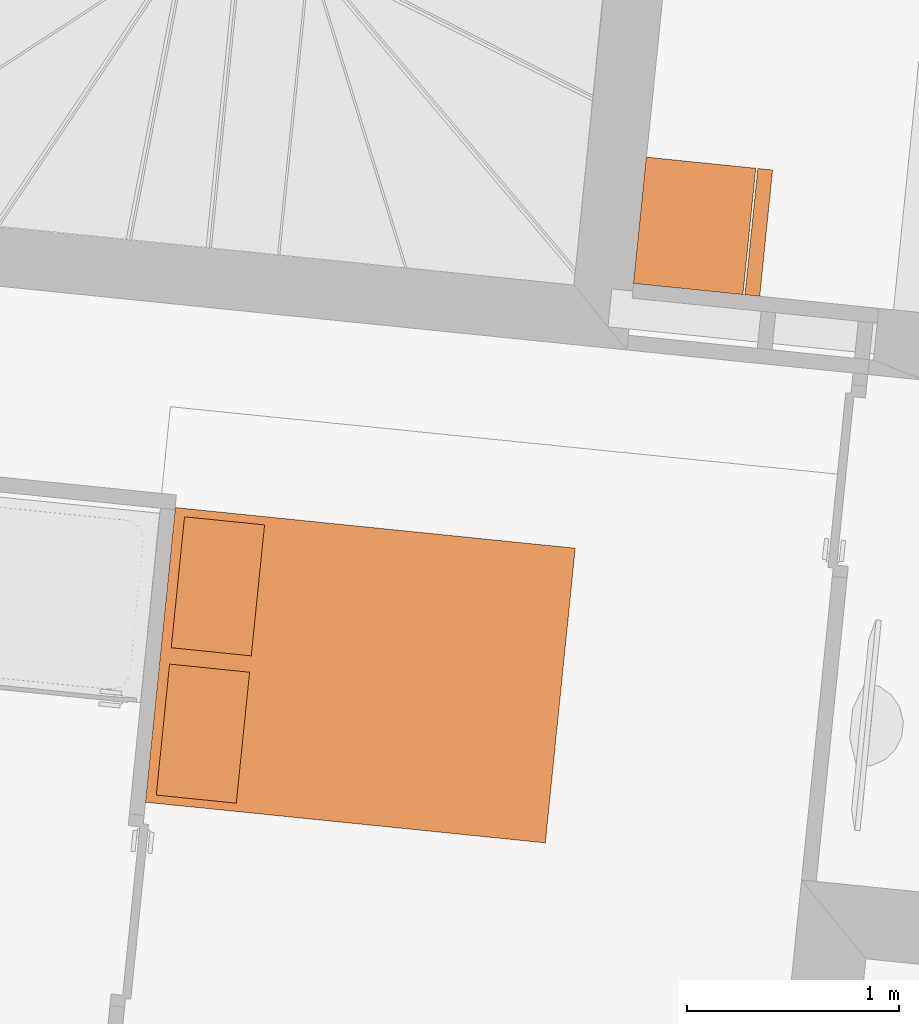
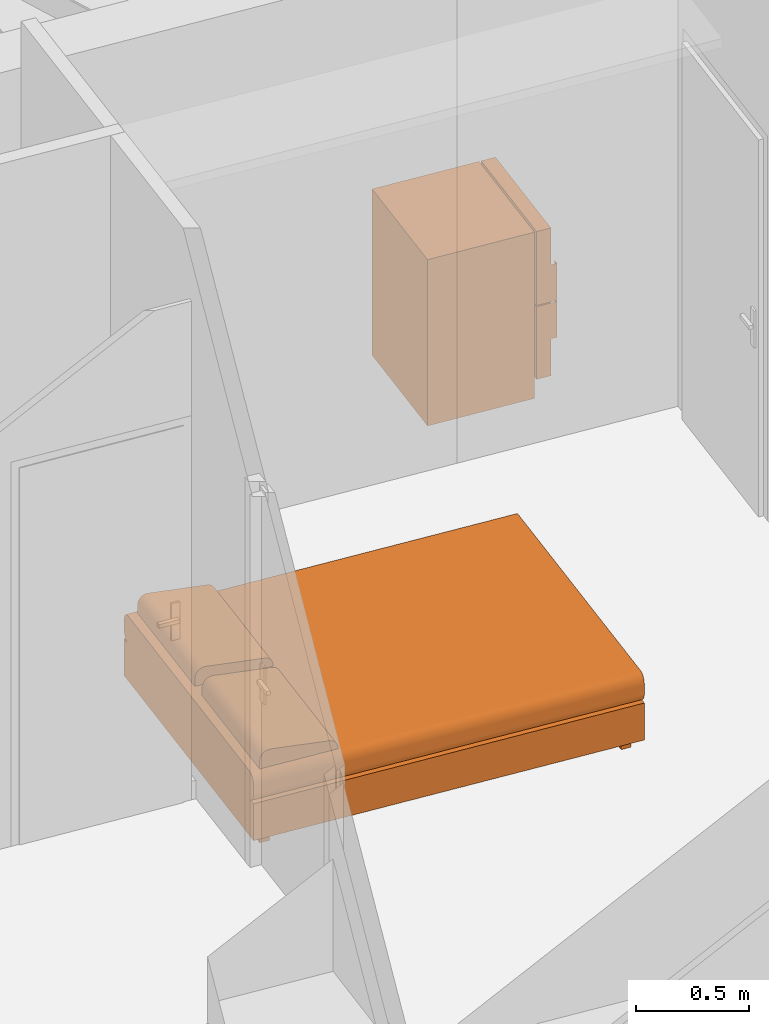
# One storey, part 154 of 164: 2 proxies.
"""IFC2X3 building model written with IfcOpenShell, lengths in millimetres."""

from ifc_helpers import new_model, entity, si_unit, converted_unit, derived_unit, money_unit, direction, frame, origin_with_axes, place, context, subcontext, project, spatial, open_shell, faceted_brep, surface_model, source, transform, mapped, type_object, element, save


model = new_model("IFC2X3")

# Units and contexts
model_context = context("Model", 3, precision=0.01, world=origin_with_axes(), true_north=direction((0.0, 1.0)))
body_context = subcontext(model_context, "Body", "Model", "MODEL_VIEW")
ifc_project = project(units=[si_unit("LENGTHUNIT", "METRE", prefix="MILLI"), si_unit("AREAUNIT", "SQUARE_METRE"), si_unit("VOLUMEUNIT", "CUBIC_METRE"), converted_unit("PLANEANGLEUNIT", "DEGREE", entity("IfcPlaneAngleMeasure", 0.0174532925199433), si_unit("PLANEANGLEUNIT", "RADIAN"), dimensions=[0, 0, 0, 0, 0, 0, 0]), money_unit("USD"), converted_unit("TIMEUNIT", "Year", entity("IfcTimeMeasure", 31557600.0), si_unit("TIMEUNIT", "SECOND"), dimensions=[0, 0, 1, 0, 0, 0, 0]), si_unit("MASSUNIT", "GRAM", prefix="KILO"), si_unit("THERMODYNAMICTEMPERATUREUNIT", "DEGREE_CELSIUS"), si_unit("LUMINOUSINTENSITYUNIT", "LUMEN"), si_unit("ENERGYUNIT", "JOULE", prefix="MEGA"), derived_unit("THERMALCONDUCTANCEUNIT", [(si_unit("POWERUNIT", "WATT"), 1), (si_unit("LENGTHUNIT", "METRE"), -1), (si_unit("THERMODYNAMICTEMPERATUREUNIT", "KELVIN"), -1)]), derived_unit("SPECIFICHEATCAPACITYUNIT", [(si_unit("ENERGYUNIT", "JOULE"), 1), (si_unit("MASSUNIT", "GRAM", prefix="KILO"), -1), (si_unit("THERMODYNAMICTEMPERATUREUNIT", "KELVIN"), -1)]), derived_unit("MASSDENSITYUNIT", [(si_unit("MASSUNIT", "GRAM", prefix="KILO"), 1), (si_unit("VOLUMEUNIT", "CUBIC_METRE"), -1)])], contexts=[model_context])

# Site, building, storey
site_placement = place(None, origin_with_axes())
site = spatial("IfcSite", under=ifc_project, at=site_placement, Name="Site", CompositionType="ELEMENT")
building_placement = place(site_placement, origin_with_axes())
building = spatial("IfcBuilding", under=site, at=building_placement, Name="Bâtiment", CompositionType="ELEMENT")
storey_placement = place(building_placement, frame((0.0, 0.0, 5750.0), z_axis=(0.0, 0.0, 1.0), x_axis=(1.0, 0.0, 0.0)))
storey = spatial("IfcBuildingStorey", under=building, at=storey_placement, Name="Etage1", CompositionType="ELEMENT", Elevation=5750.0)

# Proxies
building_element_proxy_type = type_object("IfcBuildingElementProxyType", PredefinedType="NOTDEFINED")
shared_shape_1 = source(origin_with_axes(), body_context, "Body", "SurfaceModel", [
    faceted_brep([(0.0, 80.0, 100.0), (0.0, 80.0, 900.0), (-600.0, 80.0, 900.0), (-600.0, 80.0, 100.0), (0.0, 600.0, 100.0), (0.0, 600.0, 900.0), (-600.0, 600.0, 900.0), (-600.0, 600.0, 100.0)], [[[0, 1, 2, 3]], [[4, 5, 1, 0]], [[1, 5, 6, 2]], [[3, 2, 6, 7]], [[0, 3, 7, 4]], [[7, 6, 5, 4]]]),
    faceted_brep([(0.0, 80.0, 0.0), (0.0, 80.0, 100.0), (-600.0, 80.0, 100.0), (-600.0, 80.0, 0.0), (0.0, 600.0, 0.0), (0.0, 600.0, 100.0), (-600.0, 600.0, 100.0), (-600.0, 600.0, 0.0)], [[[0, 1, 2, 3]], [[4, 5, 1, 0]], [[1, 5, 6, 2]], [[3, 2, 6, 7]], [[0, 3, 7, 4]], [[7, 6, 5, 4]]]),
    faceted_brep([(0.0, 70.0, 100.0), (0.0, 0.0, 100.0), (-600.0, 0.0, 100.0), (-600.0, 70.0, 100.0), (0.0, 70.00000000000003, 494.0), (0.0, 0.0, 494.0), (-600.0, 0.0, 494.0), (-600.0, 70.00000000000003, 494.0)], [[[0, 1, 2, 3]], [[4, 5, 1, 0]], [[1, 5, 6, 2]], [[3, 2, 6, 7]], [[0, 3, 7, 4]], [[7, 6, 5, 4]]]),
    faceted_brep([(0.0, 70.0, 500.0), (0.0, 0.0, 500.0), (-600.0, 0.0, 500.0), (-600.0, 70.0, 500.0), (0.0, 70.00000000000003, 900.0), (0.0, 0.0, 900.0), (-600.0, 0.0, 900.0), (-600.0, 70.00000000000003, 900.0)], [[[0, 1, 2, 3]], [[4, 5, 1, 0]], [[1, 5, 6, 2]], [[3, 2, 6, 7]], [[0, 3, 7, 4]], [[7, 6, 5, 4]]]),
    surface_model("IfcShellBasedSurfaceModel", [(-600.0, -30.0, 300.0000000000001), (-600.0, 0.0, 300.0000000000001), (-600.0, 0.0, 494.0000000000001), (-600.0, -30.0, 494.0000000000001)], [open_shell([[[0, 1, 2, 3]]])]),
    surface_model("IfcShellBasedSurfaceModel", [(-600.0, -30.0, 300.0000000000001), (-570.0, -30.0, 300.0000000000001), (-570.0, -30.0, 494.0000000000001), (-600.0, -30.0, 494.0000000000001)], [open_shell([[[0, 1, 2, 3]]])]),
    surface_model("IfcShellBasedSurfaceModel", [(-600.0, -30.0, 500.0), (-600.0, 0.0, 500.0), (-600.0, 0.0, 700.0), (-600.0, -30.0, 700.0)], [open_shell([[[0, 1, 2, 3]]])]),
    surface_model("IfcShellBasedSurfaceModel", [(-600.0, -30.0, 500.0), (-570.0, -30.0, 500.0), (-570.0, -30.0, 700.0), (-600.0, -30.0, 700.0)], [open_shell([[[0, 1, 2, 3]]])]),
])
proxy_1_placement = place(storey_placement, frame((2229379.346212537, -616663.7993337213, 0.0), z_axis=(0.0, 0.0, 1.0), x_axis=(0.1011288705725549, 0.9948733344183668, 0.0)))
element("IfcBuildingElementProxy", 1, at=proxy_1_placement, inside=storey, type_object=building_element_proxy_type, Name="Obj.-019", context=body_context, shape_type="MappedRepresentation", body=[
    mapped(shared_shape_1, transform((0.0, 0.0, 0.0))),
])
shared_shape_2 = source(origin_with_axes(), body_context, "Body", "SurfaceModel", [
    faceted_brep([(622.2222222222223, -95.0, 0.0), (622.2222222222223, -47.5, 0.0), (661.1111111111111, -47.5, 0.0), (661.1111111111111, -95.0, 0.0), (622.2222222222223, -95.0, 50.0), (622.2222222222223, -47.5, 50.0), (661.1111111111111, -47.5, 50.0), (661.1111111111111, -95.0, 50.0)], [[[0, 1, 2, 3]], [[0, 4, 5, 1]], [[1, 5, 6, 2]], [[2, 6, 7, 3]], [[3, 7, 4, 0]], [[7, 6, 5, 4]]]),
    faceted_brep([(622.2222222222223, -1852.5, 0.0), (622.2222222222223, -1805.0, 0.0), (661.1111111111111, -1805.0, 0.0), (661.1111111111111, -1852.5, 0.0), (622.2222222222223, -1852.5, 50.0), (622.2222222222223, -1805.0, 50.0), (661.1111111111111, -1805.0, 50.0), (661.1111111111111, -1852.5, 50.0)], [[[0, 1, 2, 3]], [[0, 4, 5, 1]], [[1, 5, 6, 2]], [[2, 6, 7, 3]], [[3, 7, 4, 0]], [[7, 6, 5, 4]]]),
    faceted_brep([(-661.111111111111, -1852.5, 0.0), (-661.111111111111, -1805.0, 0.0), (-622.2222222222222, -1805.0, 0.0), (-622.2222222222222, -1852.5, 0.0), (-661.111111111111, -1852.5, 50.0), (-661.111111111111, -1805.0, 50.0), (-622.2222222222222, -1805.0, 50.0), (-622.2222222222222, -1852.5, 50.0)], [[[0, 1, 2, 3]], [[0, 4, 5, 1]], [[1, 5, 6, 2]], [[2, 6, 7, 3]], [[3, 7, 4, 0]], [[7, 6, 5, 4]]]),
    faceted_brep([(-661.111111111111, -94.99999999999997, 0.0), (-661.111111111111, -47.49999999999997, 0.0), (-622.2222222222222, -47.49999999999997, 0.0), (-622.2222222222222, -94.99999999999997, 0.0), (-661.111111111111, -94.99999999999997, 50.0), (-661.111111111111, -47.49999999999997, 50.0), (-622.2222222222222, -47.49999999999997, 50.0), (-622.2222222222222, -94.99999999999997, 50.0)], [[[0, 1, 2, 3]], [[0, 4, 5, 1]], [[1, 5, 6, 2]], [[2, 6, 7, 3]], [[3, 7, 4, 0]], [[7, 6, 5, 4]]]),
    faceted_brep([(700.0, 0.0, 50.0), (700.0, -1900.0, 50.00000000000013), (-700.0, -1900.0, 50.00000000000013), (-700.0, 0.0, 50.0), (700.0, 0.0, 250.0), (700.0, -1900.0, 250.0000000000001), (-700.0, -1900.0, 250.0000000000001), (-700.0, 0.0, 250.0)], [[[0, 1, 2, 3]], [[4, 5, 1, 0]], [[1, 5, 6, 2]], [[3, 2, 6, 7]], [[0, 3, 7, 4]], [[7, 6, 5, 4]]]),
    surface_model("IfcShellBasedSurfaceModel", [(-661.1111111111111, 0.0, 250.0), (-661.1111111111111, -1900.0, 250.0000000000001), (-667.8640957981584, -1900.0, 250.7596123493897), (-667.8640957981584, 0.0, 250.7596123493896), (661.1111111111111, -1900.0, 250.0000000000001), (667.8640957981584, -1900.0, 250.7596123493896), (674.4118944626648, -1900.0, 253.0153689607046), (680.5555555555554, -1900.0, 256.6987298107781), (686.1084070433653, -1900.0, 261.6977778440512), (690.9017283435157, -1900.0, 267.8606195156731), (694.7898768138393, -1900.0, 275.0000000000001), (697.654713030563, -1900.0, 282.8989928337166), (699.4091903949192, -1900.0, 291.3175911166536), (700.0, -1900.0, 300.0000000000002), (700.0000000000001, -1900.0, 350.0000000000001), (699.4091903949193, -1900.0, 358.6824088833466), (697.654713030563, -1900.0, 367.1010071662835), (694.7898768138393, -1900.0, 375.0000000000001), (690.9017283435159, -1900.0, 382.1393804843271), (686.1084070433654, -1900.0, 388.302222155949), (680.5555555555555, -1900.0, 393.3012701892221), (674.4118944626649, -1900.0, 396.9846310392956), (667.8640957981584, -1900.0, 399.2403876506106), (661.1111111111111, -1900.0, 400.0000000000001), (-661.111111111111, -1900.0, 400.0000000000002), (-667.8640957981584, -1900.0, 399.2403876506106), (-674.4118944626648, -1900.0, 396.9846310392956), (-680.5555555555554, -1900.0, 393.3012701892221), (-686.1084070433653, -1900.0, 388.302222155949), (-690.9017283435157, -1900.0, 382.1393804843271), (-694.7898768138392, -1900.0, 375.0000000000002), (-697.654713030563, -1900.0, 367.1010071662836), (-699.4091903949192, -1900.0, 358.6824088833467), (-700.0, -1900.0, 350.0000000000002), (-700.0, -1900.0, 300.0000000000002), (-699.4091903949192, -1900.0, 291.3175911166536), (-697.654713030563, -1900.0, 282.8989928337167), (-694.7898768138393, -1900.0, 275.0000000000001), (-690.9017283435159, -1900.0, 267.8606195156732), (-686.1084070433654, -1900.0, 261.6977778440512), (-680.5555555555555, -1900.0, 256.6987298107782), (-674.4118944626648, -1900.0, 253.0153689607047), (-674.4118944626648, 0.0, 253.0153689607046), (661.1111111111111, 0.0, 250.0), (-680.5555555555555, 0.0, 256.698729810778), (-686.1084070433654, 0.0, 261.6977778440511), (-690.9017283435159, 0.0, 267.8606195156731), (-694.7898768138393, 0.0, 275.0), (-697.654713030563, 0.0, 282.8989928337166), (-699.4091903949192, 0.0, 291.3175911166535), (-700.0, 0.0, 300.0000000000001), (-700.0, 0.0, 350.0000000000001), (-699.4091903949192, 0.0, 358.6824088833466), (-697.654713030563, 0.0, 367.1010071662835), (-694.7898768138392, 0.0, 375.0000000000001), (-690.9017283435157, 0.0, 382.139380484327), (-686.1084070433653, 0.0, 388.3022221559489), (-680.5555555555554, 0.0, 393.301270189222), (-674.4118944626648, 0.0, 396.9846310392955), (-667.8640957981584, 0.0, 399.2403876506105), (-661.111111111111, 0.0, 400.0000000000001), (661.1111111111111, 0.0, 400.0), (667.8640957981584, 0.0, 399.2403876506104), (674.4118944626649, 0.0, 396.9846310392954), (680.5555555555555, 0.0, 393.301270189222), (686.1084070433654, 0.0, 388.3022221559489), (690.9017283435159, 0.0, 382.139380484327), (694.7898768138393, 0.0, 375.0), (697.654713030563, 0.0, 367.1010071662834), (699.4091903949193, 0.0, 358.6824088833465), (700.0000000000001, 0.0, 350.0), (700.0, 0.0, 300.0000000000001), (699.4091903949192, 0.0, 291.3175911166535), (697.654713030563, 0.0, 282.8989928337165), (694.7898768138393, 0.0, 275.0), (690.9017283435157, 0.0, 267.860619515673), (686.1084070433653, 0.0, 261.6977778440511), (680.5555555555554, 0.0, 256.698729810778), (674.4118944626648, 0.0, 253.0153689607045), (667.8640957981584, 0.0, 250.7596123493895)], [open_shell([[[0, 1, 2, 3]], [[4, 5, 6, 7, 8, 9, 10, 11, 12, 13, 14, 15, 16, 17, 18, 19, 20, 21, 22, 23, 24, 25, 26, 27, 28, 29, 30, 31, 32, 33, 34, 35, 36, 37, 38, 39, 40, 41, 2, 1]], [[3, 2, 41, 42]], [[43, 0, 3, 42, 44, 45, 46, 47, 48, 49, 50, 51, 52, 53, 54, 55, 56, 57, 58, 59, 60, 61, 62, 63, 64, 65, 66, 67, 68, 69, 70, 71, 72, 73, 74, 75, 76, 77, 78, 79]], [[79, 5, 4, 43]], [[78, 6, 5, 79]], [[77, 7, 6, 78]], [[76, 8, 7, 77]], [[75, 9, 8, 76]], [[74, 10, 9, 75]], [[73, 11, 10, 74]], [[72, 12, 11, 73]], [[71, 13, 12, 72]], [[70, 14, 13, 71]], [[69, 15, 14, 70]], [[68, 16, 15, 69]], [[67, 17, 16, 68]], [[66, 18, 17, 67]], [[65, 19, 18, 66]], [[64, 20, 19, 65]], [[63, 21, 20, 64]], [[62, 22, 21, 63]], [[61, 23, 22, 62]], [[60, 24, 23, 61]], [[59, 25, 24, 60]], [[58, 26, 25, 59]], [[57, 27, 26, 58]], [[56, 28, 27, 57]], [[55, 29, 28, 56]], [[54, 30, 29, 55]], [[53, 31, 30, 54]], [[52, 32, 31, 53]], [[51, 33, 32, 52]], [[50, 34, 33, 51]], [[49, 35, 34, 50]], [[48, 36, 35, 49]], [[47, 37, 36, 48]], [[46, 38, 37, 47]], [[45, 39, 38, 46]], [[44, 40, 39, 45]], [[42, 41, 40, 44]]])]),
    faceted_brep([(-38.88888888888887, -47.49999999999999, 400.0), (-661.1111111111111, -47.50000000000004, 400.0000000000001), (-661.1111111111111, -47.50000000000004, 443.4000000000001), (-38.88888888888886, -47.49999999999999, 443.4), (-38.88888888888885, -427.5, 400.0), (-661.1111111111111, -427.5, 400.0000000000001), (-661.1111111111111, -427.6960812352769, 408.6954428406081), (-661.1111111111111, -426.4675711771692, 417.2966661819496), (-661.1111111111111, -423.8511300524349, 425.5469991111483), (-661.1111111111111, -419.924835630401, 433.2002417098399), (-661.1111111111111, -414.8058532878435, 440.0280119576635), (-661.1111111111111, -408.6469396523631, 445.826560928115), (-661.1111111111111, -401.6318841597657, 450.4228529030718), (-661.1111111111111, -393.9700245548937, 453.6797289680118), (-661.1111111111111, -385.89, 455.5000000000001), (-661.1111111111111, -100.8900000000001, 493.0000000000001), (-661.1111111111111, -92.85488048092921, 493.3370808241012), (-661.1111111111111, -84.88093291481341, 492.2422169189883), (-661.1111111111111, -77.19681007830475, 489.7468034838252), (-661.1111111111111, -70.02285403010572, 485.922396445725), (-661.1111111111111, -63.56477780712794, 480.878660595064), (-661.1111111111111, -58.00776660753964, 474.7602249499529), (-661.1111111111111, -53.51116760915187, 467.7425355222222), (-661.1111111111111, -50.20392069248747, 460.0268244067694), (-661.1111111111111, -48.18086109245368, 451.8343394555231), (-38.88888888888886, -48.18086109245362, 451.834339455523), (-38.88888888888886, -50.20392069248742, 460.0268244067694), (-38.88888888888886, -53.51116760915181, 467.7425355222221), (-38.88888888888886, -58.00776660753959, 474.7602249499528), (-38.88888888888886, -63.56477780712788, 480.878660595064), (-38.88888888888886, -70.02285403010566, 485.922396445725), (-38.88888888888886, -77.19681007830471, 489.7468034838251), (-38.88888888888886, -84.88093291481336, 492.2422169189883), (-38.88888888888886, -92.85488048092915, 493.3370808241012), (-38.88888888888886, -100.89, 493.0000000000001), (-38.88888888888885, -385.89, 455.5), (-38.88888888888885, -393.9700245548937, 453.6797289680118), (-38.88888888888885, -401.6318841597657, 450.4228529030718), (-38.88888888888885, -408.6469396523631, 445.826560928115), (-38.88888888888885, -414.8058532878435, 440.0280119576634), (-38.88888888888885, -419.9248356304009, 433.2002417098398), (-38.88888888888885, -423.8511300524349, 425.5469991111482), (-38.88888888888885, -426.4675711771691, 417.2966661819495), (-38.88888888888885, -427.6960812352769, 408.695442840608)], [[[0, 1, 2, 3]], [[4, 5, 1, 0]], [[1, 5, 6, 7, 8, 9, 10, 11, 12, 13, 14, 15, 16, 17, 18, 19, 20, 21, 22, 23, 24, 2]], [[3, 2, 24, 25]], [[0, 3, 25, 26, 27, 28, 29, 30, 31, 32, 33, 34, 35, 36, 37, 38, 39, 40, 41, 42, 43, 4]], [[43, 6, 5, 4]], [[42, 7, 6, 43]], [[41, 8, 7, 42]], [[40, 9, 8, 41]], [[39, 10, 9, 40]], [[38, 11, 10, 39]], [[37, 12, 11, 38]], [[36, 13, 12, 37]], [[35, 14, 13, 36]], [[34, 15, 14, 35]], [[33, 16, 15, 34]], [[32, 17, 16, 33]], [[31, 18, 17, 32]], [[30, 19, 18, 31]], [[29, 20, 19, 30]], [[28, 21, 20, 29]], [[27, 22, 21, 28]], [[26, 23, 22, 27]], [[25, 24, 23, 26]]]),
    faceted_brep([(661.1111111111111, -47.49999999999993, 399.9999999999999), (38.88888888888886, -47.49999999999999, 400.0), (38.88888888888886, -47.49999999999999, 443.4), (661.1111111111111, -47.49999999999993, 443.4), (661.1111111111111, -427.4999999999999, 399.9999999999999), (38.88888888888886, -427.4999999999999, 400.0), (38.88888888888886, -427.6960812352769, 408.695442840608), (38.88888888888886, -426.4675711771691, 417.2966661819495), (38.88888888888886, -423.8511300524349, 425.5469991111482), (38.88888888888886, -419.9248356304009, 433.2002417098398), (38.88888888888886, -414.8058532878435, 440.0280119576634), (38.88888888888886, -408.6469396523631, 445.826560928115), (38.88888888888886, -401.6318841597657, 450.4228529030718), (38.88888888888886, -393.9700245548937, 453.6797289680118), (38.88888888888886, -385.8899999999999, 455.5), (38.88888888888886, -100.89, 493.0000000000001), (38.88888888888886, -92.85488048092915, 493.3370808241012), (38.88888888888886, -84.88093291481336, 492.2422169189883), (38.88888888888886, -77.19681007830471, 489.7468034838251), (38.88888888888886, -70.02285403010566, 485.922396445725), (38.88888888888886, -63.56477780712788, 480.878660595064), (38.88888888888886, -58.00776660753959, 474.7602249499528), (38.88888888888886, -53.51116760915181, 467.7425355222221), (38.88888888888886, -50.20392069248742, 460.0268244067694), (38.88888888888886, -48.18086109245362, 451.834339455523), (661.1111111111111, -48.18086109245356, 451.834339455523), (661.1111111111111, -50.20392069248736, 460.0268244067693), (661.1111111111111, -53.51116760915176, 467.7425355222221), (661.1111111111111, -58.00776660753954, 474.7602249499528), (661.1111111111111, -63.56477780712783, 480.8786605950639), (661.1111111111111, -70.0228540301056, 485.9223964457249), (661.1111111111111, -77.19681007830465, 489.7468034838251), (661.1111111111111, -84.8809329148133, 492.2422169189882), (661.1111111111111, -92.8548804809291, 493.3370808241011), (661.1111111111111, -100.89, 493.0), (661.1111111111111, -385.8899999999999, 455.4999999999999), (661.1111111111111, -393.9700245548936, 453.6797289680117), (661.1111111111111, -401.6318841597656, 450.4228529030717), (661.1111111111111, -408.646939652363, 445.8265609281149), (661.1111111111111, -414.8058532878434, 440.0280119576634), (661.1111111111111, -419.9248356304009, 433.2002417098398), (661.1111111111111, -423.8511300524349, 425.5469991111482), (661.1111111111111, -426.4675711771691, 417.2966661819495), (661.1111111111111, -427.6960812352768, 408.6954428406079)], [[[0, 1, 2, 3]], [[4, 5, 1, 0]], [[1, 5, 6, 7, 8, 9, 10, 11, 12, 13, 14, 15, 16, 17, 18, 19, 20, 21, 22, 23, 24, 2]], [[3, 2, 24, 25]], [[0, 3, 25, 26, 27, 28, 29, 30, 31, 32, 33, 34, 35, 36, 37, 38, 39, 40, 41, 42, 43, 4]], [[43, 6, 5, 4]], [[42, 7, 6, 43]], [[41, 8, 7, 42]], [[40, 9, 8, 41]], [[39, 10, 9, 40]], [[38, 11, 10, 39]], [[37, 12, 11, 38]], [[36, 13, 12, 37]], [[35, 14, 13, 36]], [[34, 15, 14, 35]], [[33, 16, 15, 34]], [[32, 17, 16, 33]], [[31, 18, 17, 32]], [[30, 19, 18, 31]], [[29, 20, 19, 30]], [[28, 21, 20, 29]], [[27, 22, 21, 28]], [[26, 23, 22, 27]], [[25, 24, 23, 26]]]),
])
proxy_2_placement = place(storey_placement, frame((2226485.470211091, -618956.1063710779, 0.0), z_axis=(0.0, 0.0, 1.0), x_axis=(0.1011033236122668, 0.9948759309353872, 0.0)))
element("IfcBuildingElementProxy", 2, at=proxy_2_placement, inside=storey, type_object=building_element_proxy_type, Name="Obj.-003", context=body_context, shape_type="MappedRepresentation", body=[
    mapped(shared_shape_2, transform((0.0, 0.0, 0.0))),
])

save(model, "model.ifc")
